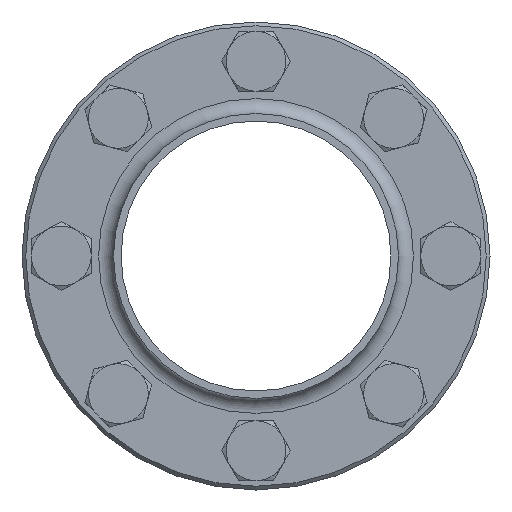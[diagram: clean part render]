
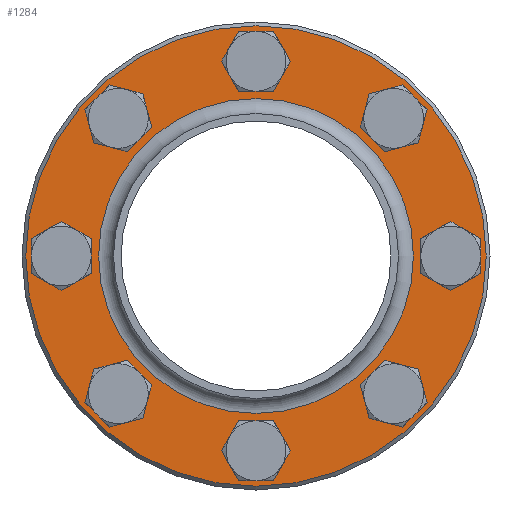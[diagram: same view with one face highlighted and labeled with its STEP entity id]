
A CAD part, front view. The second image highlights one B-rep face of the part: STEP entity #1284.
In plain terms, the highlighted planar face has unit normal (0, -1, 0).
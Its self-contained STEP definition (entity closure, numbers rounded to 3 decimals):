
#184=PLANE('',#1407);
#251=FACE_BOUND('',#457,.T.);
#252=FACE_BOUND('',#458,.T.);
#253=FACE_BOUND('',#459,.T.);
#254=FACE_BOUND('',#460,.T.);
#255=FACE_BOUND('',#461,.T.);
#256=FACE_BOUND('',#462,.T.);
#257=FACE_BOUND('',#463,.T.);
#258=FACE_BOUND('',#464,.T.);
#259=FACE_BOUND('',#465,.T.);
#340=FACE_OUTER_BOUND('',#456,.T.);
#456=EDGE_LOOP('',(#968));
#457=EDGE_LOOP('',(#969));
#458=EDGE_LOOP('',(#970));
#459=EDGE_LOOP('',(#971));
#460=EDGE_LOOP('',(#972));
#461=EDGE_LOOP('',(#973));
#462=EDGE_LOOP('',(#974));
#463=EDGE_LOOP('',(#975));
#464=EDGE_LOOP('',(#976));
#465=EDGE_LOOP('',(#977));
#587=CIRCLE('',#1355,5.5);
#589=CIRCLE('',#1358,5.5);
#591=CIRCLE('',#1361,5.5);
#593=CIRCLE('',#1364,5.5);
#595=CIRCLE('',#1367,5.5);
#597=CIRCLE('',#1370,5.5);
#599=CIRCLE('',#1373,5.5);
#601=CIRCLE('',#1376,5.5);
#617=CIRCLE('',#1406,61.5);
#618=CIRCLE('',#1408,42.05);
#675=VERTEX_POINT('',#1970);
#677=VERTEX_POINT('',#1975);
#679=VERTEX_POINT('',#1980);
#681=VERTEX_POINT('',#1985);
#683=VERTEX_POINT('',#1990);
#685=VERTEX_POINT('',#1995);
#687=VERTEX_POINT('',#2000);
#689=VERTEX_POINT('',#2005);
#705=VERTEX_POINT('',#2051);
#706=VERTEX_POINT('',#2054);
#786=EDGE_CURVE('',#675,#675,#587,.T.);
#788=EDGE_CURVE('',#677,#677,#589,.T.);
#790=EDGE_CURVE('',#679,#679,#591,.T.);
#792=EDGE_CURVE('',#681,#681,#593,.T.);
#794=EDGE_CURVE('',#683,#683,#595,.T.);
#796=EDGE_CURVE('',#685,#685,#597,.T.);
#798=EDGE_CURVE('',#687,#687,#599,.T.);
#800=EDGE_CURVE('',#689,#689,#601,.T.);
#816=EDGE_CURVE('',#705,#705,#617,.T.);
#817=EDGE_CURVE('',#706,#706,#618,.T.);
#968=ORIENTED_EDGE('',*,*,#816,.T.);
#969=ORIENTED_EDGE('',*,*,#786,.T.);
#970=ORIENTED_EDGE('',*,*,#788,.T.);
#971=ORIENTED_EDGE('',*,*,#790,.T.);
#972=ORIENTED_EDGE('',*,*,#792,.T.);
#973=ORIENTED_EDGE('',*,*,#794,.T.);
#974=ORIENTED_EDGE('',*,*,#796,.T.);
#975=ORIENTED_EDGE('',*,*,#798,.T.);
#976=ORIENTED_EDGE('',*,*,#800,.T.);
#977=ORIENTED_EDGE('',*,*,#817,.F.);
#1284=ADVANCED_FACE('',(#340,#251,#252,#253,#254,#255,#256,#257,#258,#259),
#184,.T.);
#1355=AXIS2_PLACEMENT_3D('',#1971,#1556,#1557);
#1358=AXIS2_PLACEMENT_3D('',#1976,#1562,#1563);
#1361=AXIS2_PLACEMENT_3D('',#1981,#1568,#1569);
#1364=AXIS2_PLACEMENT_3D('',#1986,#1574,#1575);
#1367=AXIS2_PLACEMENT_3D('',#1991,#1580,#1581);
#1370=AXIS2_PLACEMENT_3D('',#1996,#1586,#1587);
#1373=AXIS2_PLACEMENT_3D('',#2001,#1592,#1593);
#1376=AXIS2_PLACEMENT_3D('',#2006,#1598,#1599);
#1406=AXIS2_PLACEMENT_3D('',#2052,#1658,#1659);
#1407=AXIS2_PLACEMENT_3D('',#2053,#1660,#1661);
#1408=AXIS2_PLACEMENT_3D('',#2055,#1662,#1663);
#1556=DIRECTION('center_axis',(0.,1.,0.));
#1557=DIRECTION('ref_axis',(-0.707,0.,0.707));
#1562=DIRECTION('center_axis',(0.,1.,0.));
#1563=DIRECTION('ref_axis',(0.,0.,1.));
#1568=DIRECTION('center_axis',(0.,1.,0.));
#1569=DIRECTION('ref_axis',(0.707,0.,0.707));
#1574=DIRECTION('center_axis',(0.,1.,0.));
#1575=DIRECTION('ref_axis',(1.,0.,0.));
#1580=DIRECTION('center_axis',(0.,1.,0.));
#1581=DIRECTION('ref_axis',(0.707,0.,-0.707));
#1586=DIRECTION('center_axis',(0.,1.,0.));
#1587=DIRECTION('ref_axis',(0.,0.,-1.));
#1592=DIRECTION('center_axis',(0.,1.,0.));
#1593=DIRECTION('ref_axis',(-0.707,0.,-0.707));
#1598=DIRECTION('center_axis',(0.,1.,0.));
#1599=DIRECTION('ref_axis',(-1.,0.,0.));
#1658=DIRECTION('center_axis',(0.,-1.,0.));
#1659=DIRECTION('ref_axis',(1.,0.,0.));
#1660=DIRECTION('center_axis',(0.,-1.,0.));
#1661=DIRECTION('ref_axis',(0.,0.,-1.));
#1662=DIRECTION('center_axis',(0.,-1.,0.));
#1663=DIRECTION('ref_axis',(1.,0.,0.));
#1970=CARTESIAN_POINT('',(-32.88,44.,-40.659));
#1971=CARTESIAN_POINT('Origin',(-36.77,44.,-36.77));
#1975=CARTESIAN_POINT('',(-52.,44.,-5.5));
#1976=CARTESIAN_POINT('Origin',(-52.,44.,0.));
#1980=CARTESIAN_POINT('',(-40.659,44.,32.88));
#1981=CARTESIAN_POINT('Origin',(-36.77,44.,36.77));
#1985=CARTESIAN_POINT('',(-5.5,44.,52.));
#1986=CARTESIAN_POINT('Origin',(0.,44.,52.));
#1990=CARTESIAN_POINT('',(32.88,44.,40.659));
#1991=CARTESIAN_POINT('Origin',(36.77,44.,36.77));
#1995=CARTESIAN_POINT('',(52.,44.,5.5));
#1996=CARTESIAN_POINT('Origin',(52.,44.,0.));
#2000=CARTESIAN_POINT('',(40.659,44.,-32.88));
#2001=CARTESIAN_POINT('Origin',(36.77,44.,-36.77));
#2005=CARTESIAN_POINT('',(5.5,44.,-52.));
#2006=CARTESIAN_POINT('Origin',(0.,44.,-52.));
#2051=CARTESIAN_POINT('',(61.5,44.,0.));
#2052=CARTESIAN_POINT('Origin',(0.,44.,0.));
#2053=CARTESIAN_POINT('Origin',(51.775,44.,0.));
#2054=CARTESIAN_POINT('',(42.05,44.,0.));
#2055=CARTESIAN_POINT('Origin',(0.,44.,0.));
